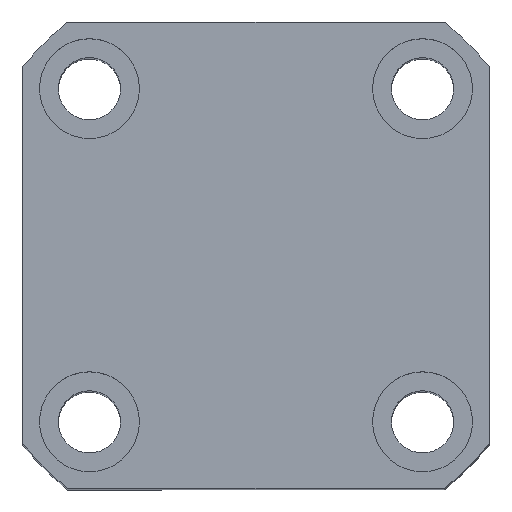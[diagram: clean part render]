
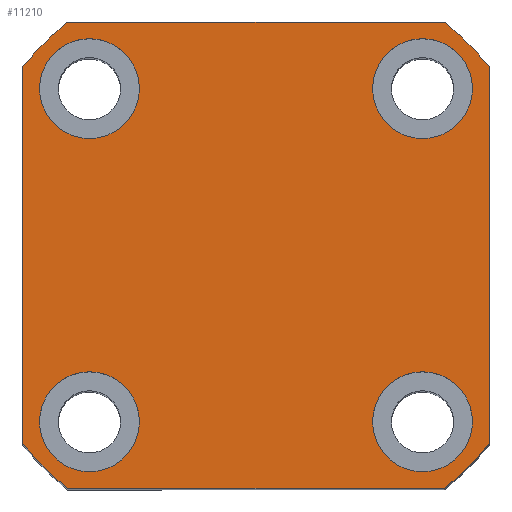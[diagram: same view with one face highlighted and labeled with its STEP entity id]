
A CAD part, top view. The second image highlights one B-rep face of the part: STEP entity #11210.
In plain terms, the highlighted planar face has unit normal (0, 0, 1).
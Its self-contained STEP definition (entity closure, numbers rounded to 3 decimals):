
#7 = AXIS2_PLACEMENT_3D ( 'NONE', #10114, #3711, #11198 ) ;
#23 = CIRCLE ( 'NONE', #5046, 4.5 ) ;
#43 = DIRECTION ( 'NONE',  ( 1., 0., 0. ) ) ;
#97 = CARTESIAN_POINT ( 'NONE',  ( -21., -16.971, 83. ) ) ;
#176 = LINE ( 'NONE', #11920, #5555 ) ;
#259 = DIRECTION ( 'NONE',  ( 0., -1., 0. ) ) ;
#402 = VERTEX_POINT ( 'NONE', #7532 ) ;
#452 = AXIS2_PLACEMENT_3D ( 'NONE', #12877, #6459, #43 ) ;
#473 = CARTESIAN_POINT ( 'NONE',  ( 15., 15., 83. ) ) ;
#618 = CARTESIAN_POINT ( 'NONE',  ( -15., -14.998, 83. ) ) ;
#708 = AXIS2_PLACEMENT_3D ( 'NONE', #7055, #7024, #7073 ) ;
#762 = ORIENTED_EDGE ( 'NONE', *, *, #4522, .F. ) ;
#858 = LINE ( 'NONE', #2636, #3709 ) ;
#1038 = EDGE_CURVE ( 'NONE', #5619, #6261, #11926, .T. ) ;
#1350 = CARTESIAN_POINT ( 'NONE',  ( -21., 21., 83. ) ) ;
#1411 = VERTEX_POINT ( 'NONE', #13253 ) ;
#1434 = CARTESIAN_POINT ( 'NONE',  ( -15., 15.002, 83. ) ) ;
#1505 = CARTESIAN_POINT ( 'NONE',  ( 10.5, 15., 83. ) ) ;
#1527 = AXIS2_PLACEMENT_3D ( 'NONE', #1434, #8906, #2507 ) ;
#1560 = DIRECTION ( 'NONE',  ( 1., 0., 0. ) ) ;
#1633 = FACE_OUTER_BOUND ( 'NONE', #8513, .T. ) ;
#1636 = AXIS2_PLACEMENT_3D ( 'NONE', #9963, #3565, #11046 ) ;
#1701 = DIRECTION ( 'NONE',  ( 1., 0., 0. ) ) ;
#1766 = ORIENTED_EDGE ( 'NONE', *, *, #12863, .F. ) ;
#1982 = DIRECTION ( 'NONE',  ( 0., 0., 1. ) ) ;
#1984 = FACE_BOUND ( 'NONE', #9064, .T. ) ;
#2083 = VERTEX_POINT ( 'NONE', #8658 ) ;
#2167 = CARTESIAN_POINT ( 'NONE',  ( 21., -16.971, 83. ) ) ;
#2382 = EDGE_CURVE ( 'NONE', #12295, #9244, #5096, .T. ) ;
#2384 = CARTESIAN_POINT ( 'NONE',  ( 16.971, -21., 83. ) ) ;
#2463 = LINE ( 'NONE', #1350, #7797 ) ;
#2507 = DIRECTION ( 'NONE',  ( 1., 0., 0. ) ) ;
#2590 = ORIENTED_EDGE ( 'NONE', *, *, #2918, .F. ) ;
#2636 = CARTESIAN_POINT ( 'NONE',  ( 21., 21., 83. ) ) ;
#2677 = DIRECTION ( 'NONE',  ( 0., 0., 1. ) ) ;
#2875 = CARTESIAN_POINT ( 'NONE',  ( 19.5, 15., 83. ) ) ;
#2918 = EDGE_CURVE ( 'NONE', #11311, #2083, #10929, .T. ) ;
#3000 = CIRCLE ( 'NONE', #13035, 27. ) ;
#3199 = CARTESIAN_POINT ( 'NONE',  ( -19.5, 15.002, 83. ) ) ;
#3475 = VERTEX_POINT ( 'NONE', #13249 ) ;
#3565 = DIRECTION ( 'NONE',  ( 0., 0., 1. ) ) ;
#3709 = VECTOR ( 'NONE', #9038, 1000. ) ;
#3711 = DIRECTION ( 'NONE',  ( 0., 0., 1. ) ) ;
#3872 = DIRECTION ( 'NONE',  ( -1., 0., 0. ) ) ;
#3876 = DIRECTION ( 'NONE',  ( 0., 0., 1. ) ) ;
#3998 = DIRECTION ( 'NONE',  ( 1., 0., 0. ) ) ;
#4017 = VERTEX_POINT ( 'NONE', #12159 ) ;
#4020 = VERTEX_POINT ( 'NONE', #1505 ) ;
#4037 = CIRCLE ( 'NONE', #1636, 4.5 ) ;
#4107 = AXIS2_PLACEMENT_3D ( 'NONE', #6290, #1982, #13777 ) ;
#4199 = EDGE_CURVE ( 'NONE', #1411, #402, #23, .T. ) ;
#4457 = DIRECTION ( 'NONE',  ( 0., 0., 1. ) ) ;
#4522 = EDGE_CURVE ( 'NONE', #402, #1411, #9737, .T. ) ;
#4606 = CARTESIAN_POINT ( 'NONE',  ( -16.971, -21., 83. ) ) ;
#4629 = EDGE_CURVE ( 'NONE', #9244, #4743, #176, .T. ) ;
#4743 = VERTEX_POINT ( 'NONE', #2384 ) ;
#5046 = AXIS2_PLACEMENT_3D ( 'NONE', #618, #8096, #1701 ) ;
#5096 = CIRCLE ( 'NONE', #13552, 27. ) ;
#5103 = CARTESIAN_POINT ( 'NONE',  ( 21., 16.971, 83. ) ) ;
#5218 = PLANE ( 'NONE',  #4107 ) ;
#5286 = ORIENTED_EDGE ( 'NONE', *, *, #11514, .T. ) ;
#5304 = DIRECTION ( 'NONE',  ( 0., 0., 1. ) ) ;
#5342 = VECTOR ( 'NONE', #3872, 1000. ) ;
#5555 = VECTOR ( 'NONE', #6545, 1000. ) ;
#5616 = EDGE_LOOP ( 'NONE', ( #1766, #13835 ) ) ;
#5619 = VERTEX_POINT ( 'NONE', #5103 ) ;
#5646 = CARTESIAN_POINT ( 'NONE',  ( 0., 0., 83. ) ) ;
#5956 = ORIENTED_EDGE ( 'NONE', *, *, #4629, .T. ) ;
#6031 = CIRCLE ( 'NONE', #13055, 4.5 ) ;
#6117 = ORIENTED_EDGE ( 'NONE', *, *, #1038, .T. ) ;
#6261 = VERTEX_POINT ( 'NONE', #10213 ) ;
#6290 = CARTESIAN_POINT ( 'NONE',  ( 0., 0., 83. ) ) ;
#6292 = ORIENTED_EDGE ( 'NONE', *, *, #10001, .T. ) ;
#6304 = ORIENTED_EDGE ( 'NONE', *, *, #8730, .F. ) ;
#6459 = DIRECTION ( 'NONE',  ( 0., 0., 1. ) ) ;
#6545 = DIRECTION ( 'NONE',  ( 1., 0., 0. ) ) ;
#6708 = DIRECTION ( 'NONE',  ( 1., 0., 0. ) ) ;
#6754 = ORIENTED_EDGE ( 'NONE', *, *, #10569, .T. ) ;
#6766 = ORIENTED_EDGE ( 'NONE', *, *, #4199, .F. ) ;
#6835 = EDGE_CURVE ( 'NONE', #7775, #5619, #858, .T. ) ;
#6926 = ORIENTED_EDGE ( 'NONE', *, *, #9349, .F. ) ;
#6995 = AXIS2_PLACEMENT_3D ( 'NONE', #473, #7955, #1560 ) ;
#7024 = DIRECTION ( 'NONE',  ( 0., 0., 1. ) ) ;
#7055 = CARTESIAN_POINT ( 'NONE',  ( 0., 0., 83. ) ) ;
#7073 = DIRECTION ( 'NONE',  ( 1., 0., 0. ) ) ;
#7313 = FACE_BOUND ( 'NONE', #9117, .T. ) ;
#7370 = EDGE_CURVE ( 'NONE', #4020, #8330, #11739, .T. ) ;
#7532 = CARTESIAN_POINT ( 'NONE',  ( -10.5, -14.998, 83. ) ) ;
#7694 = EDGE_LOOP ( 'NONE', ( #762, #6766 ) ) ;
#7775 = VERTEX_POINT ( 'NONE', #2167 ) ;
#7797 = VECTOR ( 'NONE', #259, 1000. ) ;
#7854 = VERTEX_POINT ( 'NONE', #12921 ) ;
#7922 = EDGE_CURVE ( 'NONE', #11325, #7854, #8699, .T. ) ;
#7955 = DIRECTION ( 'NONE',  ( 0., 0., 1. ) ) ;
#8096 = DIRECTION ( 'NONE',  ( 0., 0., 1. ) ) ;
#8161 = LINE ( 'NONE', #9186, #5342 ) ;
#8272 = ORIENTED_EDGE ( 'NONE', *, *, #6835, .T. ) ;
#8284 = EDGE_CURVE ( 'NONE', #3475, #4017, #12381, .T. ) ;
#8330 = VERTEX_POINT ( 'NONE', #2875 ) ;
#8513 = EDGE_LOOP ( 'NONE', ( #8272, #6117, #6754, #10304, #5286, #10951, #5956, #6292 ) ) ;
#8658 = CARTESIAN_POINT ( 'NONE',  ( -10.5, 15.002, 83. ) ) ;
#8699 = CIRCLE ( 'NONE', #7, 27. ) ;
#8730 = EDGE_CURVE ( 'NONE', #8330, #4020, #4037, .T. ) ;
#8906 = DIRECTION ( 'NONE',  ( 0., 0., 1. ) ) ;
#9038 = DIRECTION ( 'NONE',  ( 0., 1., 0. ) ) ;
#9064 = EDGE_LOOP ( 'NONE', ( #6926, #2590 ) ) ;
#9076 = CARTESIAN_POINT ( 'NONE',  ( -15., 15.002, 83. ) ) ;
#9117 = EDGE_LOOP ( 'NONE', ( #6304, #12660 ) ) ;
#9186 = CARTESIAN_POINT ( 'NONE',  ( -21., 21., 83. ) ) ;
#9244 = VERTEX_POINT ( 'NONE', #4606 ) ;
#9349 = EDGE_CURVE ( 'NONE', #2083, #11311, #12371, .T. ) ;
#9737 = CIRCLE ( 'NONE', #452, 4.5 ) ;
#9963 = CARTESIAN_POINT ( 'NONE',  ( 15., 15., 83. ) ) ;
#10001 = EDGE_CURVE ( 'NONE', #4743, #7775, #3000, .T. ) ;
#10114 = CARTESIAN_POINT ( 'NONE',  ( 0., 0., 83. ) ) ;
#10171 = DIRECTION ( 'NONE',  ( 1., 0., 0. ) ) ;
#10178 = FACE_BOUND ( 'NONE', #7694, .T. ) ;
#10213 = CARTESIAN_POINT ( 'NONE',  ( 16.971, 21., 83. ) ) ;
#10277 = CARTESIAN_POINT ( 'NONE',  ( 15., -14.998, 83. ) ) ;
#10304 = ORIENTED_EDGE ( 'NONE', *, *, #7922, .T. ) ;
#10569 = EDGE_CURVE ( 'NONE', #6261, #11325, #8161, .T. ) ;
#10929 = CIRCLE ( 'NONE', #1527, 4.5 ) ;
#10951 = ORIENTED_EDGE ( 'NONE', *, *, #2382, .T. ) ;
#11046 = DIRECTION ( 'NONE',  ( 1., 0., 0. ) ) ;
#11198 = DIRECTION ( 'NONE',  ( 1., 0., 0. ) ) ;
#11210 = ADVANCED_FACE ( 'NONE', ( #1984, #10178, #13023, #7313, #1633 ), #5218, .T. ) ;
#11311 = VERTEX_POINT ( 'NONE', #3199 ) ;
#11325 = VERTEX_POINT ( 'NONE', #12830 ) ;
#11353 = DIRECTION ( 'NONE',  ( 1., 0., 0. ) ) ;
#11418 = AXIS2_PLACEMENT_3D ( 'NONE', #9076, #2677, #10171 ) ;
#11514 = EDGE_CURVE ( 'NONE', #7854, #12295, #2463, .T. ) ;
#11700 = CARTESIAN_POINT ( 'NONE',  ( 15., -14.998, 83. ) ) ;
#11739 = CIRCLE ( 'NONE', #6995, 4.5 ) ;
#11920 = CARTESIAN_POINT ( 'NONE',  ( -21., -21., 83. ) ) ;
#11926 = CIRCLE ( 'NONE', #708, 27. ) ;
#12159 = CARTESIAN_POINT ( 'NONE',  ( 19.5, -14.998, 83. ) ) ;
#12295 = VERTEX_POINT ( 'NONE', #97 ) ;
#12371 = CIRCLE ( 'NONE', #11418, 4.5 ) ;
#12381 = CIRCLE ( 'NONE', #13663, 4.5 ) ;
#12537 = CARTESIAN_POINT ( 'NONE',  ( 0., 0., 83. ) ) ;
#12660 = ORIENTED_EDGE ( 'NONE', *, *, #7370, .F. ) ;
#12779 = DIRECTION ( 'NONE',  ( 1., 0., 0. ) ) ;
#12830 = CARTESIAN_POINT ( 'NONE',  ( -16.971, 21., 83. ) ) ;
#12863 = EDGE_CURVE ( 'NONE', #4017, #3475, #6031, .T. ) ;
#12877 = CARTESIAN_POINT ( 'NONE',  ( -15., -14.998, 83. ) ) ;
#12921 = CARTESIAN_POINT ( 'NONE',  ( -21., 16.971, 83. ) ) ;
#13023 = FACE_BOUND ( 'NONE', #5616, .T. ) ;
#13035 = AXIS2_PLACEMENT_3D ( 'NONE', #5646, #13126, #6708 ) ;
#13055 = AXIS2_PLACEMENT_3D ( 'NONE', #11700, #5304, #12779 ) ;
#13126 = DIRECTION ( 'NONE',  ( 0., 0., 1. ) ) ;
#13249 = CARTESIAN_POINT ( 'NONE',  ( 10.5, -14.998, 83. ) ) ;
#13253 = CARTESIAN_POINT ( 'NONE',  ( -19.5, -14.998, 83. ) ) ;
#13552 = AXIS2_PLACEMENT_3D ( 'NONE', #12537, #4457, #3998 ) ;
#13663 = AXIS2_PLACEMENT_3D ( 'NONE', #10277, #3876, #11353 ) ;
#13777 = DIRECTION ( 'NONE',  ( 1., 0., 0. ) ) ;
#13835 = ORIENTED_EDGE ( 'NONE', *, *, #8284, .F. ) ;
